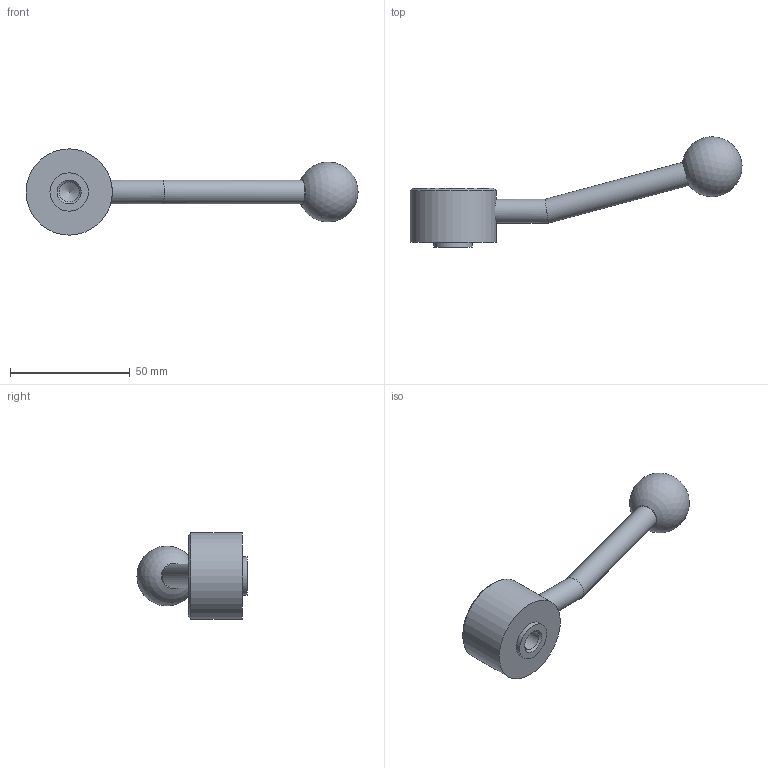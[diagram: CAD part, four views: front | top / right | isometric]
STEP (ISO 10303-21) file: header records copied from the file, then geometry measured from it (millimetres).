
FILE_DESCRIPTION( ( 'STEP AP203' ), '1' );
FILE_NAME( 'C:/Temp/Ganter_Step_05_03_2020/data/2_1/gn_125/gn_125_mb/gn_125_mb_e/Flat Adjustable Lever GN 125-36-M10-E.stp', '2020-03-05T11:00:41', ( 'License CC BY-ND 4.0' ), ( 'CADENAS' ), ' ', 'PARTsolutions', ' ' );
FILE_SCHEMA( ( 'CONFIG_CONTROL_DESIGN' ) );
Length unit declared in the file: millimetre
Products named in the file (1): _Flat Adjustable Lever GN 125-36-M10-E
Bounding box: 138.41 x 45.96 x 36 mm (x, y, z)
Volume: 36796.8 mm3; surface area: 9357.4 mm2
Topology: 1 solids, 1 shells, 15 faces, 27 edges, 17 vertices
Faces by surface type: cylinder 6, plane 5, cone 3, sphere 1
Full cylindrical faces by diameter (mm): 8.376 x1, 10 x2, 16 x1, 26 x1, 36 x1
Entity records: 416 total; most frequent: CARTESIAN_POINT 119, DIRECTION 58, AXIS2_PLACEMENT_3D 29, EDGE_LOOP 28, ORIENTED_EDGE 28, FACE_OUTER_BOUND 21, VERTEX_POINT 16, ADVANCED_FACE 15
